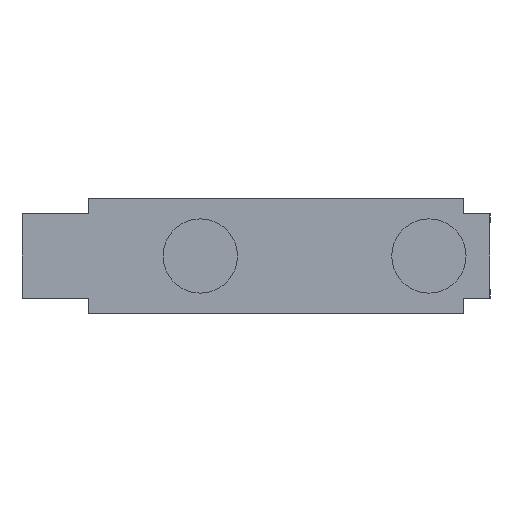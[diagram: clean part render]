
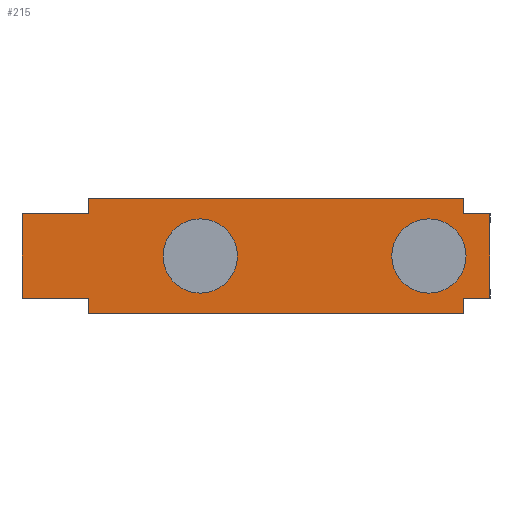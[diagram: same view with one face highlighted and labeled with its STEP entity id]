
A CAD part, left-side view. The second image highlights one B-rep face of the part: STEP entity #215.
In plain terms, the highlighted planar face has unit normal (-1, 0, 0).
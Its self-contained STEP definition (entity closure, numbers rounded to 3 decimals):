
#215 = ADVANCED_FACE ( 'NONE', ( #331, #323, #336 ), #884, .F. ) ;
#323 = FACE_OUTER_BOUND ( 'NONE', #2659, .T. ) ;
#331 = FACE_BOUND ( 'NONE', #2663, .T. ) ;
#336 = FACE_BOUND ( 'NONE', #2661, .T. ) ;
#407 = LINE ( 'NONE', #1492, #415 ) ;
#415 = VECTOR ( 'NONE', #1495, 1000. ) ;
#429 = LINE ( 'NONE', #1529, #444 ) ;
#434 = CIRCLE ( 'NONE', #2040, 5.2 ) ;
#441 = LINE ( 'NONE', #1531, #445 ) ;
#444 = VECTOR ( 'NONE', #1532, 1000. ) ;
#445 = VECTOR ( 'NONE', #1534, 1000. ) ;
#478 = LINE ( 'NONE', #1575, #479 ) ;
#479 = VECTOR ( 'NONE', #1576, 1000. ) ;
#513 = LINE ( 'NONE', #1631, #530 ) ;
#523 = CIRCLE ( 'NONE', #2120, 5.2 ) ;
#530 = VECTOR ( 'NONE', #1634, 1000. ) ;
#536 = LINE ( 'NONE', #1639, #537 ) ;
#537 = VECTOR ( 'NONE', #1640, 1000. ) ;
#577 = LINE ( 'NONE', #1682, #578 ) ;
#578 = VECTOR ( 'NONE', #1683, 1000. ) ;
#643 = VERTEX_POINT ( 'NONE', #1366 ) ;
#655 = VERTEX_POINT ( 'NONE', #1378 ) ;
#678 = VERTEX_POINT ( 'NONE', #1401 ) ;
#683 = VERTEX_POINT ( 'NONE', #1406 ) ;
#687 = VERTEX_POINT ( 'NONE', #1410 ) ;
#688 = VERTEX_POINT ( 'NONE', #1411 ) ;
#691 = VERTEX_POINT ( 'NONE', #1414 ) ;
#700 = VERTEX_POINT ( 'NONE', #1423 ) ;
#702 = VERTEX_POINT ( 'NONE', #1425 ) ;
#707 = VERTEX_POINT ( 'NONE', #1430 ) ;
#710 = VERTEX_POINT ( 'NONE', #1433 ) ;
#714 = VERTEX_POINT ( 'NONE', #1437 ) ;
#721 = VERTEX_POINT ( 'NONE', #1444 ) ;
#727 = VERTEX_POINT ( 'NONE', #1450 ) ;
#746 = VERTEX_POINT ( 'NONE', #1469 ) ;
#761 = VERTEX_POINT ( 'NONE', #1484 ) ;
#820 = LINE ( 'NONE', #1718, #844 ) ;
#844 = VECTOR ( 'NONE', #1725, 1000. ) ;
#884 = PLANE ( 'NONE',  #2218 ) ;
#886 = CARTESIAN_POINT ( 'NONE',  ( 0.65, 47.6, -8. ) ) ;
#888 = DIRECTION ( 'NONE',  ( 1., 0., 0. ) ) ;
#890 = DIRECTION ( 'NONE',  ( 0., -1., 0. ) ) ;
#922 = LINE ( 'NONE', #1764, #924 ) ;
#924 = VECTOR ( 'NONE', #1765, 1000. ) ;
#985 = LINE ( 'NONE', #1796, #987 ) ;
#987 = VECTOR ( 'NONE', #1797, 1000. ) ;
#1078 = CIRCLE ( 'NONE', #2156, 5.2 ) ;
#1131 = LINE ( 'NONE', #1874, #1151 ) ;
#1151 = VECTOR ( 'NONE', #1889, 1000. ) ;
#1205 = LINE ( 'NONE', #1919, #1207 ) ;
#1207 = VECTOR ( 'NONE', #1920, 1000. ) ;
#1291 = CIRCLE ( 'NONE', #2037, 5.2 ) ;
#1366 = CARTESIAN_POINT ( 'NONE',  ( 0.65, 5.2, 0. ) ) ;
#1378 = CARTESIAN_POINT ( 'NONE',  ( 0.65, 26.8, 0. ) ) ;
#1401 = CARTESIAN_POINT ( 'NONE',  ( 0.65, -5.2, 0. ) ) ;
#1406 = CARTESIAN_POINT ( 'NONE',  ( 0.65, -8.55, -5.9 ) ) ;
#1410 = CARTESIAN_POINT ( 'NONE',  ( 0.65, -4.9, -5.9 ) ) ;
#1411 = CARTESIAN_POINT ( 'NONE',  ( 0.65, -8.55, 5.9 ) ) ;
#1414 = CARTESIAN_POINT ( 'NONE',  ( 0.65, 37.2, 0. ) ) ;
#1423 = CARTESIAN_POINT ( 'NONE',  ( 0.65, -4.9, 5.9 ) ) ;
#1425 = CARTESIAN_POINT ( 'NONE',  ( 0.65, 56.95, -5.9 ) ) ;
#1430 = CARTESIAN_POINT ( 'NONE',  ( 0.65, 47.6, -5.9 ) ) ;
#1433 = CARTESIAN_POINT ( 'NONE',  ( 0.65, 47.6, 8. ) ) ;
#1437 = CARTESIAN_POINT ( 'NONE',  ( 0.65, -4.9, 8. ) ) ;
#1444 = CARTESIAN_POINT ( 'NONE',  ( 0.65, -4.9, -8. ) ) ;
#1450 = CARTESIAN_POINT ( 'NONE',  ( 0.65, 47.6, 5.9 ) ) ;
#1469 = CARTESIAN_POINT ( 'NONE',  ( 0.65, 47.6, -8. ) ) ;
#1484 = CARTESIAN_POINT ( 'NONE',  ( 0.65, 56.95, 5.9 ) ) ;
#1492 = CARTESIAN_POINT ( 'NONE',  ( 0.65, 56.95, 5.9 ) ) ;
#1495 = DIRECTION ( 'NONE',  ( 0., 0., 1. ) ) ;
#1514 = CARTESIAN_POINT ( 'NONE',  ( 0.65, 32., 0. ) ) ;
#1515 = DIRECTION ( 'NONE',  ( -1., 0., 0. ) ) ;
#1516 = DIRECTION ( 'NONE',  ( 0., -1., 0. ) ) ;
#1529 = CARTESIAN_POINT ( 'NONE',  ( 0.65, 47.6, -5.9 ) ) ;
#1531 = CARTESIAN_POINT ( 'NONE',  ( 0.65, -4.9, -8. ) ) ;
#1532 = DIRECTION ( 'NONE',  ( 0., 1., 0. ) ) ;
#1534 = DIRECTION ( 'NONE',  ( 0., 0., 1. ) ) ;
#1575 = CARTESIAN_POINT ( 'NONE',  ( 0.65, -4.9, -8. ) ) ;
#1576 = DIRECTION ( 'NONE',  ( 0., 0., 1. ) ) ;
#1622 = CARTESIAN_POINT ( 'NONE',  ( 0.65, 0., 0. ) ) ;
#1623 = DIRECTION ( 'NONE',  ( -1., 0., 0. ) ) ;
#1624 = DIRECTION ( 'NONE',  ( 0., -1., 0. ) ) ;
#1631 = CARTESIAN_POINT ( 'NONE',  ( 0.65, 47.6, 5.9 ) ) ;
#1634 = DIRECTION ( 'NONE',  ( 0., -1., 0. ) ) ;
#1639 = CARTESIAN_POINT ( 'NONE',  ( 0.65, 47.6, -8. ) ) ;
#1640 = DIRECTION ( 'NONE',  ( 0., 0., 1. ) ) ;
#1682 = CARTESIAN_POINT ( 'NONE',  ( 0.65, 47.6, 8. ) ) ;
#1683 = DIRECTION ( 'NONE',  ( 0., 1., 0. ) ) ;
#1718 = CARTESIAN_POINT ( 'NONE',  ( 0.65, -8.55, 5.9 ) ) ;
#1725 = DIRECTION ( 'NONE',  ( 0., -1., 0. ) ) ;
#1764 = CARTESIAN_POINT ( 'NONE',  ( 0.65, -8.55, -5.9 ) ) ;
#1765 = DIRECTION ( 'NONE',  ( 0., 1., 0. ) ) ;
#1796 = CARTESIAN_POINT ( 'NONE',  ( 0.65, 47.6, -8. ) ) ;
#1797 = DIRECTION ( 'NONE',  ( 0., 0., 1. ) ) ;
#1843 = CARTESIAN_POINT ( 'NONE',  ( 0.65, 0., 0. ) ) ;
#1845 = DIRECTION ( 'NONE',  ( -1., 0., 0. ) ) ;
#1846 = DIRECTION ( 'NONE',  ( 0., -1., 0. ) ) ;
#1874 = CARTESIAN_POINT ( 'NONE',  ( 0.65, 47.6, -8. ) ) ;
#1889 = DIRECTION ( 'NONE',  ( 0., 1., 0. ) ) ;
#1919 = CARTESIAN_POINT ( 'NONE',  ( 0.65, -8.55, 5.9 ) ) ;
#1920 = DIRECTION ( 'NONE',  ( 0., 0., -1. ) ) ;
#1956 = CARTESIAN_POINT ( 'NONE',  ( 0.65, 32., 0. ) ) ;
#1966 = DIRECTION ( 'NONE',  ( -1., 0., 0. ) ) ;
#1967 = DIRECTION ( 'NONE',  ( 0., -1., 0. ) ) ;
#1982 = EDGE_CURVE ( 'NONE', #702, #761, #407, .T. ) ;
#1992 = EDGE_CURVE ( 'NONE', #655, #691, #434, .T. ) ;
#2000 = EDGE_CURVE ( 'NONE', #707, #702, #429, .T. ) ;
#2001 = EDGE_CURVE ( 'NONE', #721, #687, #441, .T. ) ;
#2033 = EDGE_CURVE ( 'NONE', #700, #714, #478, .T. ) ;
#2037 = AXIS2_PLACEMENT_3D ( 'NONE', #1956, #1966, #1967 ) ;
#2040 = AXIS2_PLACEMENT_3D ( 'NONE', #1514, #1515, #1516 ) ;
#2067 = EDGE_CURVE ( 'NONE', #678, #643, #523, .T. ) ;
#2076 = EDGE_CURVE ( 'NONE', #761, #727, #513, .T. ) ;
#2081 = EDGE_CURVE ( 'NONE', #727, #710, #536, .T. ) ;
#2117 = EDGE_CURVE ( 'NONE', #714, #710, #577, .T. ) ;
#2120 = AXIS2_PLACEMENT_3D ( 'NONE', #1622, #1623, #1624 ) ;
#2144 = EDGE_CURVE ( 'NONE', #700, #688, #820, .T. ) ;
#2156 = AXIS2_PLACEMENT_3D ( 'NONE', #1843, #1845, #1846 ) ;
#2189 = EDGE_CURVE ( 'NONE', #683, #687, #922, .T. ) ;
#2211 = EDGE_CURVE ( 'NONE', #746, #707, #985, .T. ) ;
#2218 = AXIS2_PLACEMENT_3D ( 'NONE', #886, #888, #890 ) ;
#2240 = EDGE_CURVE ( 'NONE', #643, #678, #1078, .T. ) ;
#2269 = EDGE_CURVE ( 'NONE', #721, #746, #1131, .T. ) ;
#2290 = EDGE_CURVE ( 'NONE', #688, #683, #1205, .T. ) ;
#2321 = EDGE_CURVE ( 'NONE', #691, #655, #1291, .T. ) ;
#2551 = ORIENTED_EDGE ( 'NONE', *, *, #2321, .F. ) ;
#2552 = ORIENTED_EDGE ( 'NONE', *, *, #1992, .F. ) ;
#2560 = ORIENTED_EDGE ( 'NONE', *, *, #2117, .T. ) ;
#2561 = ORIENTED_EDGE ( 'NONE', *, *, #2081, .F. ) ;
#2562 = ORIENTED_EDGE ( 'NONE', *, *, #2067, .F. ) ;
#2563 = ORIENTED_EDGE ( 'NONE', *, *, #2240, .F. ) ;
#2564 = ORIENTED_EDGE ( 'NONE', *, *, #2000, .F. ) ;
#2565 = ORIENTED_EDGE ( 'NONE', *, *, #2290, .F. ) ;
#2566 = ORIENTED_EDGE ( 'NONE', *, *, #2033, .T. ) ;
#2567 = ORIENTED_EDGE ( 'NONE', *, *, #2144, .F. ) ;
#2568 = ORIENTED_EDGE ( 'NONE', *, *, #2189, .F. ) ;
#2569 = ORIENTED_EDGE ( 'NONE', *, *, #2211, .F. ) ;
#2570 = ORIENTED_EDGE ( 'NONE', *, *, #2001, .T. ) ;
#2571 = ORIENTED_EDGE ( 'NONE', *, *, #2269, .F. ) ;
#2572 = ORIENTED_EDGE ( 'NONE', *, *, #2076, .F. ) ;
#2573 = ORIENTED_EDGE ( 'NONE', *, *, #1982, .F. ) ;
#2659 = EDGE_LOOP ( 'NONE', ( #2560, #2561, #2572, #2573, #2564, #2569, #2571, #2570, #2568, #2565, #2567, #2566 ) ) ;
#2661 = EDGE_LOOP ( 'NONE', ( #2552, #2551 ) ) ;
#2663 = EDGE_LOOP ( 'NONE', ( #2562, #2563 ) ) ;
